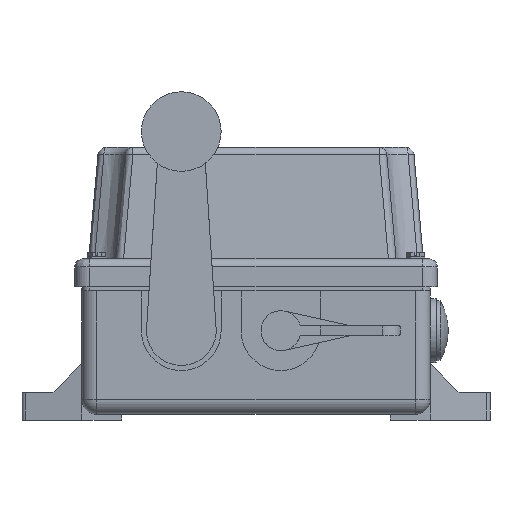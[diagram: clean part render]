
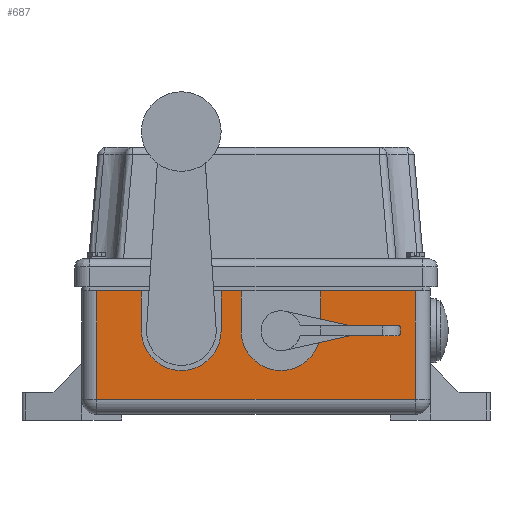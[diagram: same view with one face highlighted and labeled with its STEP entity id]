
A CAD part, front view. The second image highlights one B-rep face of the part: STEP entity #687.
In plain terms, the highlighted planar face has unit normal (0, -1, 0).
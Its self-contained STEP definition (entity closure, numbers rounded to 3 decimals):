
#687 = ADVANCED_FACE( '', ( #1317 ), #1318, .T. );
#1317 = FACE_OUTER_BOUND( '', #2468, .T. );
#1318 = PLANE( '', #2469 );
#2468 = EDGE_LOOP( '', ( #4089, #4090, #4091, #4092, #4093, #4094, #4095, #4096, #4097, #4098, #4099, #4100 ) );
#2469 = AXIS2_PLACEMENT_3D( '', #4101, #4102, #4103 );
#4089 = ORIENTED_EDGE( '', *, *, #4582, .F. );
#4090 = ORIENTED_EDGE( '', *, *, #4349, .F. );
#4091 = ORIENTED_EDGE( '', *, *, #4855, .T. );
#4092 = ORIENTED_EDGE( '', *, *, #4318, .T. );
#4093 = ORIENTED_EDGE( '', *, *, #4857, .T. );
#4094 = ORIENTED_EDGE( '', *, *, #4345, .F. );
#4095 = ORIENTED_EDGE( '', *, *, #4781, .T. );
#4096 = ORIENTED_EDGE( '', *, *, #4890, .T. );
#4097 = ORIENTED_EDGE( '', *, *, #4544, .T. );
#4098 = ORIENTED_EDGE( '', *, *, #4337, .F. );
#4099 = ORIENTED_EDGE( '', *, *, #4907, .F. );
#4100 = ORIENTED_EDGE( '', *, *, #4502, .F. );
#4101 = CARTESIAN_POINT( '', ( 258.273, -42.5, 64. ) );
#4102 = DIRECTION( '', ( 0., -1., 0. ) );
#4103 = DIRECTION( '', ( 0., 0., -1. ) );
#4318 = EDGE_CURVE( '', #5249, #5250, #5251, .F. );
#4337 = EDGE_CURVE( '', #5283, #5285, #5286, .T. );
#4345 = EDGE_CURVE( '', #5299, #5301, #5302, .T. );
#4349 = EDGE_CURVE( '', #5307, #5279, #5309, .T. );
#4502 = EDGE_CURVE( '', #5571, #5573, #5574, .T. );
#4544 = EDGE_CURVE( '', #5642, #5285, #5643, .F. );
#4582 = EDGE_CURVE( '', #5279, #5571, #5696, .T. );
#4781 = EDGE_CURVE( '', #5299, #5964, #5966, .T. );
#4855 = EDGE_CURVE( '', #5307, #5249, #6049, .T. );
#4857 = EDGE_CURVE( '', #5250, #5301, #6051, .T. );
#4890 = EDGE_CURVE( '', #5964, #5642, #6088, .F. );
#4907 = EDGE_CURVE( '', #5573, #5283, #6106, .T. );
#5249 = VERTEX_POINT( '', #6342 );
#5250 = VERTEX_POINT( '', #6343 );
#5251 = CIRCLE( '', #6344, 20. );
#5279 = VERTEX_POINT( '', #6382 );
#5283 = VERTEX_POINT( '', #6388 );
#5285 = VERTEX_POINT( '', #6391 );
#5286 = LINE( '', #6392, #6393 );
#5299 = VERTEX_POINT( '', #6409 );
#5301 = VERTEX_POINT( '', #6411 );
#5302 = LINE( '', #6412, #6413 );
#5307 = VERTEX_POINT( '', #6420 );
#5309 = LINE( '', #6423, #6424 );
#5571 = VERTEX_POINT( '', #7192 );
#5573 = VERTEX_POINT( '', #7195 );
#5574 = CIRCLE( '', #7196, 20. );
#5642 = VERTEX_POINT( '', #7315 );
#5643 = LINE( '', #7316, #7317 );
#5696 = LINE( '', #7422, #7423 );
#5964 = VERTEX_POINT( '', #7951 );
#5966 = LINE( '', #7953, #7954 );
#6049 = LINE( '', #8075, #8076 );
#6051 = LINE( '', #8078, #8079 );
#6088 = LINE( '', #8126, #8127 );
#6106 = LINE( '', #8148, #8149 );
#6342 = CARTESIAN_POINT( '', ( -17.5, -42.5, 42. ) );
#6343 = CARTESIAN_POINT( '', ( -57.5, -42.5, 42. ) );
#6344 = AXIS2_PLACEMENT_3D( '', #8334, #8335, #8336 );
#6382 = CARTESIAN_POINT( '', ( -7.5, -42.5, 62. ) );
#6388 = CARTESIAN_POINT( '', ( 32.5, -42.5, 62. ) );
#6391 = CARTESIAN_POINT( '', ( 80., -42.5, 62. ) );
#6392 = CARTESIAN_POINT( '', ( 258.273, -42.5, 62. ) );
#6393 = VECTOR( '', #8356, 1000. );
#6409 = CARTESIAN_POINT( '', ( -80., -42.5, 62. ) );
#6411 = CARTESIAN_POINT( '', ( -57.5, -42.5, 62. ) );
#6412 = CARTESIAN_POINT( '', ( 258.273, -42.5, 62. ) );
#6413 = VECTOR( '', #8372, 1000. );
#6420 = CARTESIAN_POINT( '', ( -17.5, -42.5, 62. ) );
#6423 = CARTESIAN_POINT( '', ( 258.273, -42.5, 62. ) );
#6424 = VECTOR( '', #8376, 1000. );
#7192 = CARTESIAN_POINT( '', ( -7.5, -42.5, 42. ) );
#7195 = CARTESIAN_POINT( '', ( 32.5, -42.5, 42. ) );
#7196 = AXIS2_PLACEMENT_3D( '', #8573, #8574, #8575 );
#7315 = CARTESIAN_POINT( '', ( 80., -42.5, 7.5 ) );
#7316 = CARTESIAN_POINT( '', ( 80., -42.5, 64. ) );
#7317 = VECTOR( '', #8629, 1000. );
#7422 = CARTESIAN_POINT( '', ( -7.5, -42.5, 64. ) );
#7423 = VECTOR( '', #8683, 1000. );
#7951 = CARTESIAN_POINT( '', ( -80., -42.5, 7.5 ) );
#7953 = CARTESIAN_POINT( '', ( -80., -42.5, 64. ) );
#7954 = VECTOR( '', #8897, 1000. );
#8075 = CARTESIAN_POINT( '', ( -17.5, -42.5, 64. ) );
#8076 = VECTOR( '', #8965, 1000. );
#8078 = CARTESIAN_POINT( '', ( -57.5, -42.5, 64. ) );
#8079 = VECTOR( '', #8966, 1000. );
#8126 = CARTESIAN_POINT( '', ( 258.273, -42.5, 7.5 ) );
#8127 = VECTOR( '', #8995, 1000. );
#8148 = CARTESIAN_POINT( '', ( 32.5, -42.5, 64. ) );
#8149 = VECTOR( '', #9002, 1000. );
#8334 = CARTESIAN_POINT( '', ( -37.5, -42.5, 42. ) );
#8335 = DIRECTION( '', ( 0., -1., 0. ) );
#8336 = DIRECTION( '', ( 0., 0., -1. ) );
#8356 = DIRECTION( '', ( 1., 0., 0. ) );
#8372 = DIRECTION( '', ( 1., 0., 0. ) );
#8376 = DIRECTION( '', ( 1., 0., 0. ) );
#8573 = CARTESIAN_POINT( '', ( 12.5, -42.5, 42. ) );
#8574 = DIRECTION( '', ( 0., -1., 0. ) );
#8575 = DIRECTION( '', ( 0., 0., -1. ) );
#8629 = DIRECTION( '', ( 0., 0., -1. ) );
#8683 = DIRECTION( '', ( 0., 0., -1. ) );
#8897 = DIRECTION( '', ( 0., 0., -1. ) );
#8965 = DIRECTION( '', ( 0., 0., -1. ) );
#8966 = DIRECTION( '', ( 0., 0., 1. ) );
#8995 = DIRECTION( '', ( -1., 0., 0. ) );
#9002 = DIRECTION( '', ( 0., 0., 1. ) );
